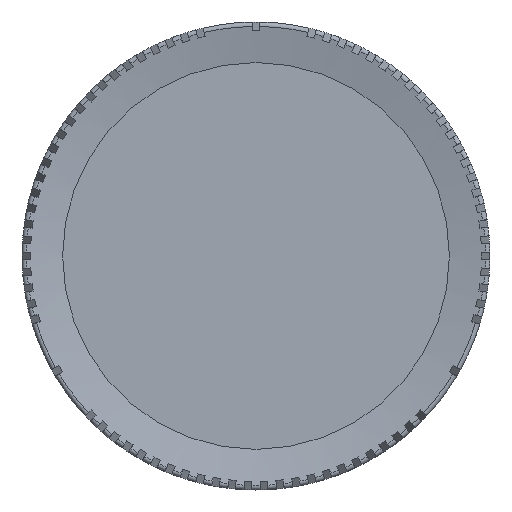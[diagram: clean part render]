
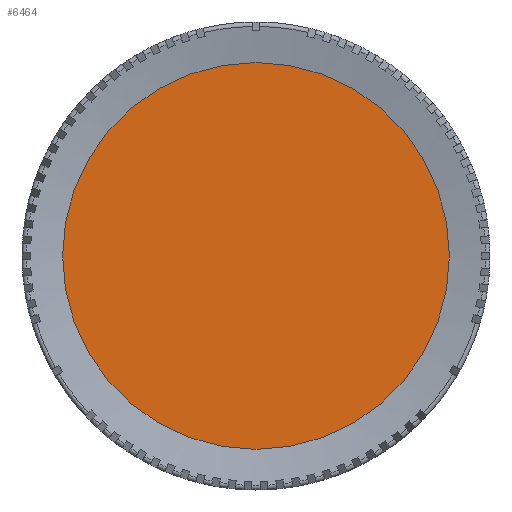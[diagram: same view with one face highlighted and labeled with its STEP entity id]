
A CAD part, top view. The second image highlights one B-rep face of the part: STEP entity #6464.
In plain terms, the highlighted planar face has unit normal (0, 0, 1) as drawn and (0, 1, 0) by its records, which use the part's own axes.
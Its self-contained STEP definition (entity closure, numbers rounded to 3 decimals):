
#1484=FACE_OUTER_BOUND('',#1849,.T.);
#1849=EDGE_LOOP('',(#4167));
#2225=CIRCLE('',#6916,15.5);
#2433=VERTEX_POINT('',#9386);
#3121=EDGE_CURVE('',#2433,#2433,#2225,.T.);
#4167=ORIENTED_EDGE('',*,*,#3121,.T.);
#6207=PLANE('',#6915);
#6464=ADVANCED_FACE('',(#1484),#6207,.T.);
#6915=AXIS2_PLACEMENT_3D('',#9385,#7597,#7598);
#6916=AXIS2_PLACEMENT_3D('',#9387,#7599,#7600);
#7597=DIRECTION('center_axis',(0.,1.,0.));
#7598=DIRECTION('ref_axis',(0.,0.,1.));
#7599=DIRECTION('center_axis',(0.,1.,0.));
#7600=DIRECTION('ref_axis',(-1.,0.,0.));
#9385=CARTESIAN_POINT('Origin',(-7.75,6.9,0.));
#9386=CARTESIAN_POINT('',(15.5,6.9,0.));
#9387=CARTESIAN_POINT('Origin',(0.,6.9,0.));
